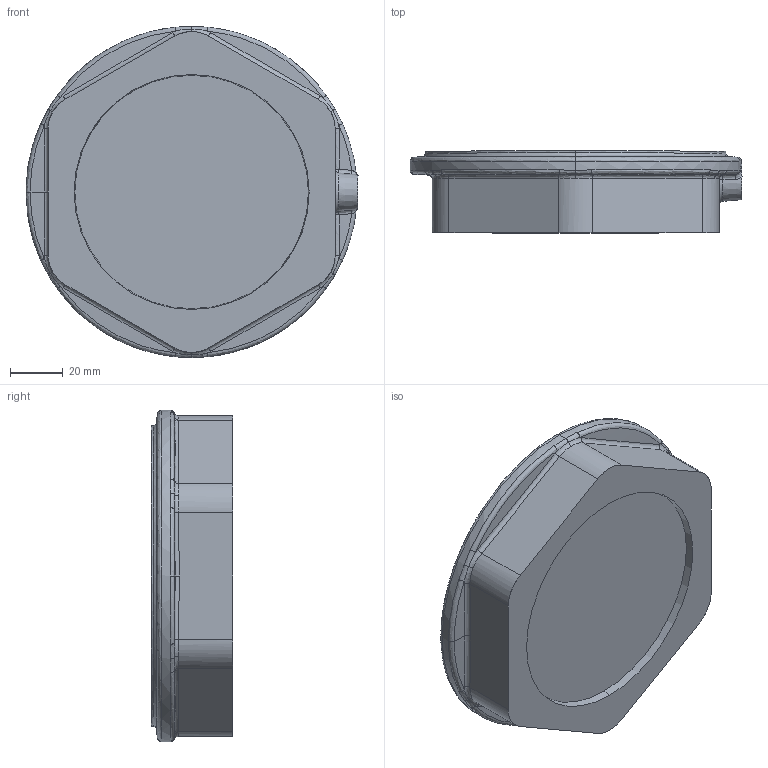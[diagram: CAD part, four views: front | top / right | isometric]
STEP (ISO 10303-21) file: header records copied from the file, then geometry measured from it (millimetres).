
FILE_DESCRIPTION (( 'STEP AP203' ), '1' );
FILE_NAME ('18022001.STEP', '2013-10-25T13:10:37', ( 'eb' ), ( '' ), 'SwSTEP 2.0', 'SolidWorks 2013', '' );
FILE_SCHEMA (( 'CONFIG_CONTROL_DESIGN' ));
Length unit declared in the file: inch
Products named in the file (1): 18022001
Bounding box: 125.76 x 30.91 x 125.48 mm (x, y, z)
Volume: 310402.3 mm3; surface area: 36132.7 mm2
Topology: 1 solids, 1 shells, 104 faces, 315 edges, 211 vertices
Faces by surface type: bspline 65, cone 16, cylinder 13, plane 10
Entity records: 5782 total; most frequent: CARTESIAN_POINT 3480, ORIENTED_EDGE 622, EDGE_CURVE 311, DIRECTION 264, VERTEX_POINT 211, B_SPLINE_CURVE_WITH_KNOTS 200, AXIS2_PLACEMENT_3D 116, EDGE_LOOP 106
